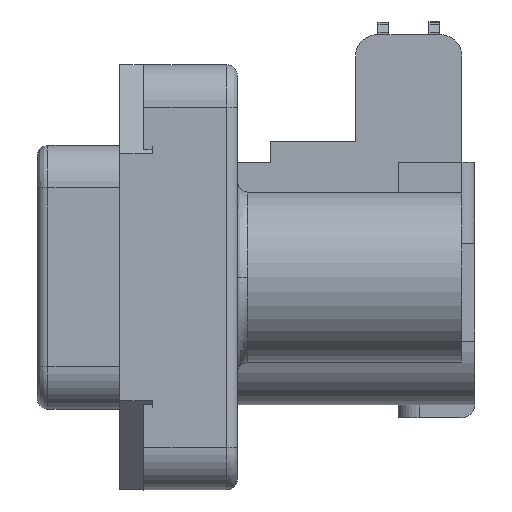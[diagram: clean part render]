
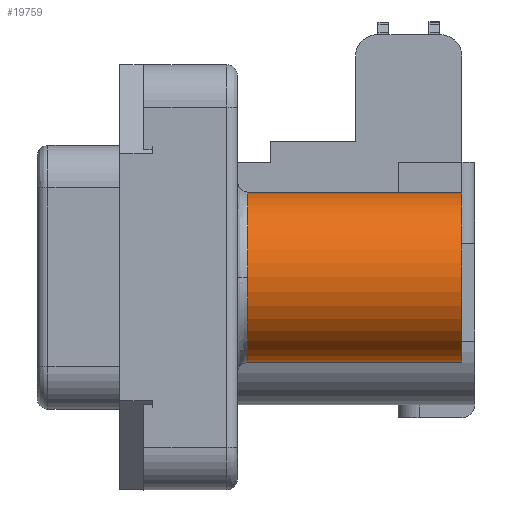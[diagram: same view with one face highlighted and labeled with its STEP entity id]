
A CAD part, left-side view. The second image highlights one B-rep face of the part: STEP entity #19759.
In plain terms, the highlighted cylindrical face has radius 2 mm (diameter 4 mm), a partial arc.
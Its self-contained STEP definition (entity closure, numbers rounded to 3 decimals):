
#159 = CARTESIAN_POINT ( 'NONE',  ( -5.681, -4.765, -5.831 ) ) ;
#963 = LINE ( 'NONE', #13678, #1006 ) ;
#1006 = VECTOR ( 'NONE', #13712, 1000. ) ;
#1436 = EDGE_CURVE ( 'NONE', #13850, #18022, #7622, .T. ) ;
#2010 = DIRECTION ( 'NONE',  ( 0., 1., 0. ) ) ;
#2194 = ORIENTED_EDGE ( 'NONE', *, *, #1436, .F. ) ;
#2345 = VERTEX_POINT ( 'NONE', #20156 ) ;
#2808 = AXIS2_PLACEMENT_3D ( 'NONE', #5478, #5812, #5841 ) ;
#3260 = EDGE_CURVE ( 'NONE', #2345, #11203, #22216, .T. ) ;
#5478 = CARTESIAN_POINT ( 'NONE',  ( -7.5, -2.25, -5. ) ) ;
#5518 = CARTESIAN_POINT ( 'NONE',  ( -5.681, -7.28, -5.831 ) ) ;
#5656 = ORIENTED_EDGE ( 'NONE', *, *, #9809, .F. ) ;
#5812 = DIRECTION ( 'NONE',  ( 0., 1., 0. ) ) ;
#5841 = DIRECTION ( 'NONE',  ( -1., 0., 0. ) ) ;
#7622 = CIRCLE ( 'NONE', #2808, 2. ) ;
#7634 = ORIENTED_EDGE ( 'NONE', *, *, #23091, .F. ) ;
#7754 = ORIENTED_EDGE ( 'NONE', *, *, #3260, .F. ) ;
#9809 = EDGE_CURVE ( 'NONE', #18022, #2345, #963, .T. ) ;
#10169 = CARTESIAN_POINT ( 'NONE',  ( -5.681, -2.25, -5.831 ) ) ;
#11004 = CARTESIAN_POINT ( 'NONE',  ( -7.5, -2.25, -5. ) ) ;
#11203 = VERTEX_POINT ( 'NONE', #5518 ) ;
#11209 = DIRECTION ( 'NONE',  ( 0., 0., 1. ) ) ;
#11364 = AXIS2_PLACEMENT_3D ( 'NONE', #11004, #23717, #12795 ) ;
#12795 = DIRECTION ( 'NONE',  ( -1., 0., 0. ) ) ;
#13120 = VERTEX_POINT ( 'NONE', #10169 ) ;
#13604 = CARTESIAN_POINT ( 'NONE',  ( -7.5, -7.28, -5. ) ) ;
#13622 = DIRECTION ( 'NONE',  ( 0., -1., 0. ) ) ;
#13648 = DIRECTION ( 'NONE',  ( 0., 0., 1. ) ) ;
#13678 = CARTESIAN_POINT ( 'NONE',  ( -5.681, -4.765, -4.169 ) ) ;
#13712 = DIRECTION ( 'NONE',  ( 0., -1., 0. ) ) ;
#13850 = VERTEX_POINT ( 'NONE', #23550 ) ;
#14765 = CARTESIAN_POINT ( 'NONE',  ( -7.5, -7.28, -5. ) ) ;
#15334 = CARTESIAN_POINT ( 'NONE',  ( -5.681, -2.25, -4.169 ) ) ;
#15356 = LINE ( 'NONE', #159, #15628 ) ;
#15628 = VECTOR ( 'NONE', #2010, 1000. ) ;
#16062 = ORIENTED_EDGE ( 'NONE', *, *, #20806, .F. ) ;
#18022 = VERTEX_POINT ( 'NONE', #15334 ) ;
#18170 = AXIS2_PLACEMENT_3D ( 'NONE', #13604, #13622, #13648 ) ;
#18297 = DIRECTION ( 'NONE',  ( 0., 1., 0. ) ) ;
#18612 = FACE_OUTER_BOUND ( 'NONE', #19977, .T. ) ;
#18659 = AXIS2_PLACEMENT_3D ( 'NONE', #14765, #18297, #11209 ) ;
#18769 = CYLINDRICAL_SURFACE ( 'NONE', #18659, 2. ) ;
#19759 = ADVANCED_FACE ( 'NONE', ( #18612 ), #18769, .T. ) ;
#19977 = EDGE_LOOP ( 'NONE', ( #7754, #5656, #2194, #16062, #7634 ) ) ;
#20156 = CARTESIAN_POINT ( 'NONE',  ( -5.681, -7.28, -4.169 ) ) ;
#20806 = EDGE_CURVE ( 'NONE', #13120, #13850, #21786, .T. ) ;
#21786 = CIRCLE ( 'NONE', #11364, 2. ) ;
#22216 = CIRCLE ( 'NONE', #18170, 2. ) ;
#23091 = EDGE_CURVE ( 'NONE', #11203, #13120, #15356, .T. ) ;
#23550 = CARTESIAN_POINT ( 'NONE',  ( -9.5, -2.25, -5. ) ) ;
#23717 = DIRECTION ( 'NONE',  ( 0., 1., 0. ) ) ;
